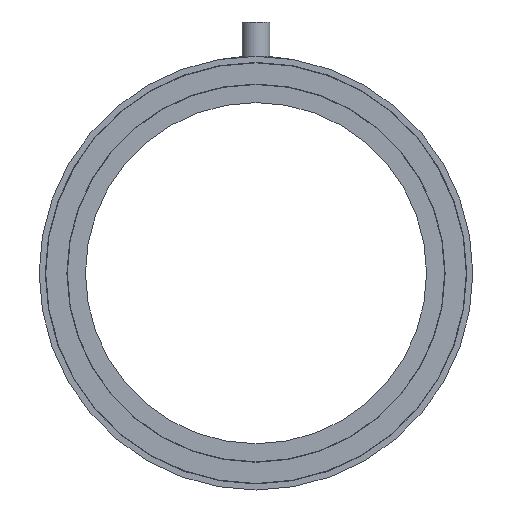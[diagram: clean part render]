
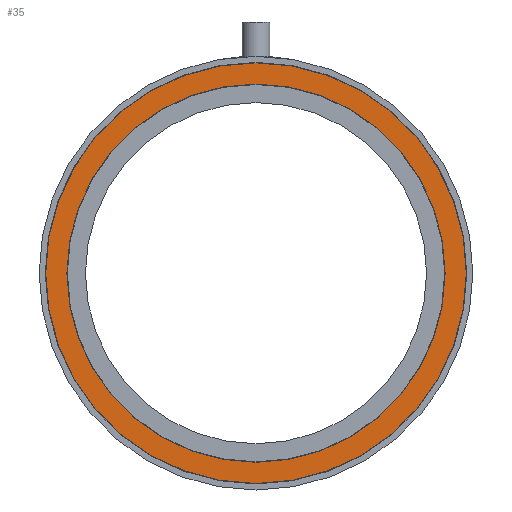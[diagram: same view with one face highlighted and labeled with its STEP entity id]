
A CAD part, front view. The second image highlights one B-rep face of the part: STEP entity #35.
In plain terms, the highlighted planar face has unit normal (0, -1, 0).
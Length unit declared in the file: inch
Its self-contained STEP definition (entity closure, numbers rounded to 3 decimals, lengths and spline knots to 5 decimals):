
#35 = ADVANCED_FACE ( 'NONE', ( #353, #368 ), #835, .F. ) ;
#59 = CIRCLE ( 'NONE', #1063, 2.466 ) ;
#92 = CIRCLE ( 'NONE', #1128, 2.2175 ) ;
#135 = ORIENTED_EDGE ( 'NONE', *, *, #1015, .T. ) ;
#162 = EDGE_LOOP ( 'NONE', ( #135, #177 ) ) ;
#177 = ORIENTED_EDGE ( 'NONE', *, *, #1176, .T. ) ;
#182 = EDGE_LOOP ( 'NONE', ( #253, #212 ) ) ;
#212 = ORIENTED_EDGE ( 'NONE', *, *, #1028, .F. ) ;
#253 = ORIENTED_EDGE ( 'NONE', *, *, #1042, .F. ) ;
#353 = FACE_BOUND ( 'NONE', #162, .T. ) ;
#368 = FACE_OUTER_BOUND ( 'NONE', #182, .T. ) ;
#391 = CIRCLE ( 'NONE', #1116, 2.466 ) ;
#399 = CIRCLE ( 'NONE', #1102, 2.2175 ) ;
#435 = CARTESIAN_POINT ( 'NONE',  ( 0., -0.61, 0. ) ) ;
#462 = DIRECTION ( 'NONE',  ( 0., 1., 0. ) ) ;
#464 = DIRECTION ( 'NONE',  ( 0., 0., 1. ) ) ;
#483 = DIRECTION ( 'NONE',  ( 0., 0., 1. ) ) ;
#512 = CARTESIAN_POINT ( 'NONE',  ( 0., -0.61, 0. ) ) ;
#518 = DIRECTION ( 'NONE',  ( 0., 1., 0. ) ) ;
#630 = DIRECTION ( 'NONE',  ( 0., 0., 1. ) ) ;
#662 = DIRECTION ( 'NONE',  ( 0., 1., 0. ) ) ;
#677 = CARTESIAN_POINT ( 'NONE',  ( 0., -0.61, 0. ) ) ;
#703 = VERTEX_POINT ( 'NONE', #894 ) ;
#705 = VERTEX_POINT ( 'NONE', #880 ) ;
#731 = VERTEX_POINT ( 'NONE', #871 ) ;
#749 = VERTEX_POINT ( 'NONE', #908 ) ;
#817 = CARTESIAN_POINT ( 'NONE',  ( 0., -0.61, 0. ) ) ;
#831 = DIRECTION ( 'NONE',  ( 0., 1., 0. ) ) ;
#835 = PLANE ( 'NONE',  #1072 ) ;
#837 = DIRECTION ( 'NONE',  ( 0., 0., 1. ) ) ;
#871 = CARTESIAN_POINT ( 'NONE',  ( 0., -0.61, -2.466 ) ) ;
#880 = CARTESIAN_POINT ( 'NONE',  ( 0., -0.61, 2.2175 ) ) ;
#894 = CARTESIAN_POINT ( 'NONE',  ( 0., -0.61, -2.2175 ) ) ;
#908 = CARTESIAN_POINT ( 'NONE',  ( 0., -0.61, 2.466 ) ) ;
#931 = DIRECTION ( 'NONE',  ( 0., 1., 0. ) ) ;
#951 = CARTESIAN_POINT ( 'NONE',  ( 0., -0.61, 0. ) ) ;
#953 = DIRECTION ( 'NONE',  ( 0., 0., 1. ) ) ;
#1015 = EDGE_CURVE ( 'NONE', #705, #703, #399, .T. ) ;
#1028 = EDGE_CURVE ( 'NONE', #731, #749, #391, .T. ) ;
#1042 = EDGE_CURVE ( 'NONE', #749, #731, #59, .T. ) ;
#1063 = AXIS2_PLACEMENT_3D ( 'NONE', #512, #518, #483 ) ;
#1072 = AXIS2_PLACEMENT_3D ( 'NONE', #817, #831, #837 ) ;
#1102 = AXIS2_PLACEMENT_3D ( 'NONE', #951, #931, #953 ) ;
#1116 = AXIS2_PLACEMENT_3D ( 'NONE', #435, #462, #464 ) ;
#1128 = AXIS2_PLACEMENT_3D ( 'NONE', #677, #662, #630 ) ;
#1176 = EDGE_CURVE ( 'NONE', #703, #705, #92, .T. ) ;
